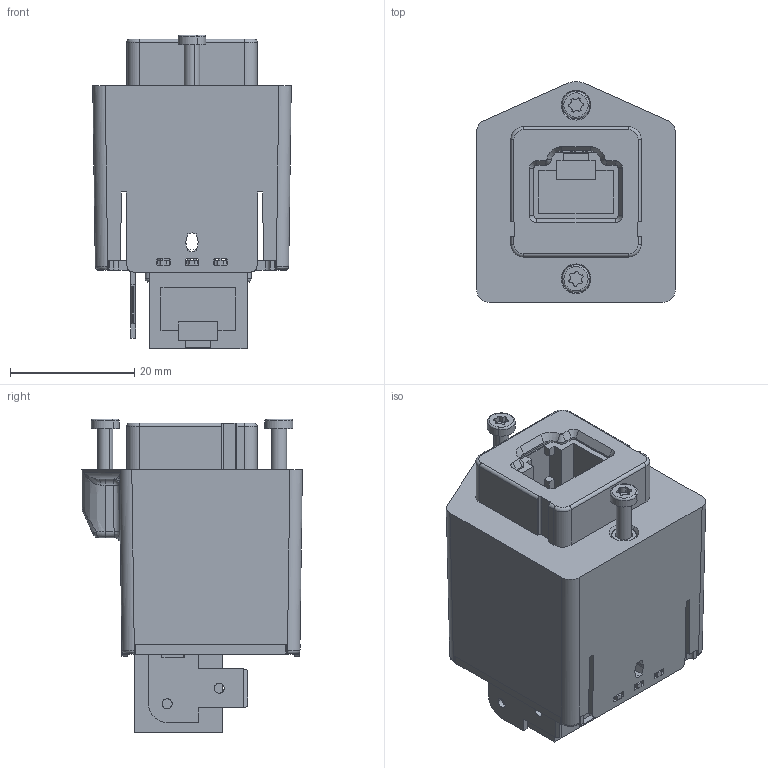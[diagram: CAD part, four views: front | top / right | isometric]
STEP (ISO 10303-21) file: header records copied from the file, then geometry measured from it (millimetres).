
FILE_DESCRIPTION((''),'2;1');
FILE_NAME('ASM0001_ASM','2011-11-15T',('ulf'),(''),'PRO/ENGINEER BY PARAMETRIC TECHNOLOGY CORPORATION, 2011190','PRO/ENGINEER BY PARAMETRIC TECHNOLOGY CORPORATION, 2011190','');
FILE_SCHEMA(('AUTOMOTIVE_DESIGN { 1 0 10303 214 1 1 1 1 }'));
Length unit declared in the file: inch
Products named in the file (3): 11; 12; ASM0001_ASM
Assembly tree (2 placements, depth 2):
  ASM0001_ASM
    11
    12
Bounding box: 32 x 35.59 x 50.6 mm (x, y, z)
Volume: 14044.8 mm3; surface area: 15282.2 mm2
Topology: 4 solids, 4 shells, 803 faces, 2160 edges, 1381 vertices
Faces by surface type: plane 447, cylinder 254, cone 48, bspline 35, torus 15, sphere 4
Entity records: 27731 total; most frequent: CARTESIAN_POINT 7374, ORIENTED_EDGE 4308, DIRECTION 4055, EDGE_CURVE 2154, VECTOR 1435, LINE 1435, VERTEX_POINT 1381, AXIS2_PLACEMENT_3D 1310
